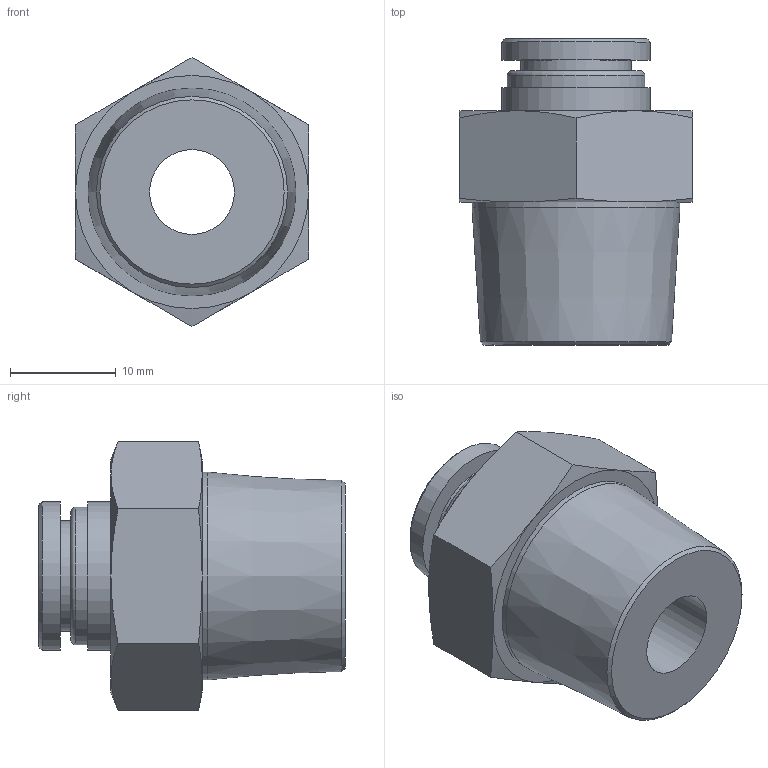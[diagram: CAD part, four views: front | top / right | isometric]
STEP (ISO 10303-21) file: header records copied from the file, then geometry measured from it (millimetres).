
FILE_DESCRIPTION(/* description */ (''),/* implementation_level */ '2;1');
FILE_NAME(/* name */ 'LXH11 0010 B4.stp',/* time_stamp */ '2026-04-19T13:56:49+02:00',/* author */ ('freju'),/* organization */ (''),/* preprocessor_version */ 'ST-DEVELOPER v20.1',/* originating_system */ 'Autodesk Inventor 2026',/* authorisation */ '');
FILE_SCHEMA (('AUTOMOTIVE_DESIGN { 1 0 10303 214 3 1 1 }'));
Length unit declared in the file: millimetre
Products named in the file (1): LXH11 0010 B4
Bounding box: 22 x 28.9 x 25.4 mm (x, y, z)
Volume: 6533.6 mm3; surface area: 3313 mm2
Topology: 1 solids, 1 shells, 37 faces, 74 edges, 45 vertices
Faces by surface type: cone 15, plane 14, cylinder 7, torus 1
Full cylindrical faces by diameter (mm): 8 x1, 10 x1, 10.4 x1, 13 x1, 14 x2, 19.627 x1
Entity records: 981 total; most frequent: CARTESIAN_POINT 205, DIRECTION 160, ORIENTED_EDGE 148, EDGE_CURVE 74, AXIS2_PLACEMENT_3D 72, EDGE_LOOP 45, VERTEX_POINT 45, FACE_OUTER_BOUND 37
